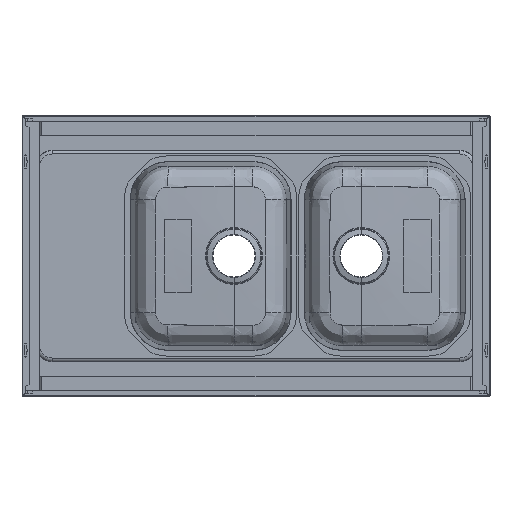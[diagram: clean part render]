
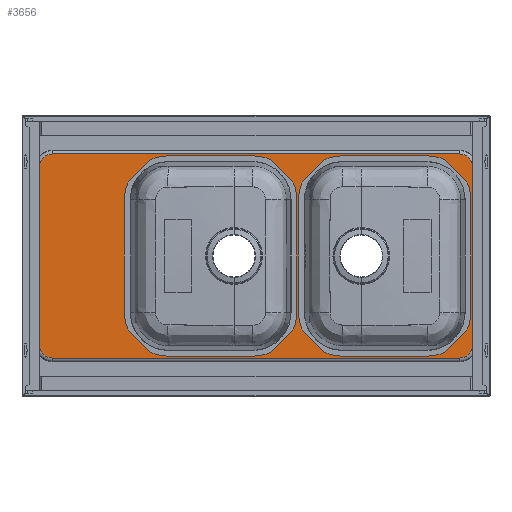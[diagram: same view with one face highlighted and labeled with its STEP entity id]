
A CAD part, front view. The second image highlights one B-rep face of the part: STEP entity #3656.
In plain terms, the highlighted planar face has unit normal (0, -1, 0).
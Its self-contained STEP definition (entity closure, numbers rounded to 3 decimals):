
#497=DIRECTION('',(-1.,0.,0.));
#498=VECTOR('',#497,870.);
#499=CARTESIAN_POINT('',(435.,-8.6,218.072));
#500=LINE('',#499,#498);
#501=CARTESIAN_POINT('',(435.,-8.6,190.));
#502=DIRECTION('',(0.,-1.,0.));
#503=DIRECTION('',(1.,0.,0.));
#504=AXIS2_PLACEMENT_3D('',#501,#502,#503);
#506=DIRECTION('',(0.,0.,1.));
#507=VECTOR('',#506,380.);
#508=CARTESIAN_POINT('',(463.072,-8.6,-190.));
#509=LINE('',#508,#507);
#510=CARTESIAN_POINT('',(435.,-8.6,-190.));
#511=DIRECTION('',(0.,-1.,0.));
#512=DIRECTION('',(0.,0.,-1.));
#513=AXIS2_PLACEMENT_3D('',#510,#511,#512);
#515=DIRECTION('',(1.,0.,0.));
#516=VECTOR('',#515,870.);
#517=CARTESIAN_POINT('',(-435.,-8.6,-218.072));
#518=LINE('',#517,#516);
#519=CARTESIAN_POINT('',(-435.,-8.6,-190.));
#520=DIRECTION('',(0.,-1.,0.));
#521=DIRECTION('',(-1.,0.,0.));
#522=AXIS2_PLACEMENT_3D('',#519,#520,#521);
#524=DIRECTION('',(0.,0.,-1.));
#525=VECTOR('',#524,380.);
#526=CARTESIAN_POINT('',(-463.072,-8.6,190.));
#527=LINE('',#526,#525);
#528=CARTESIAN_POINT('',(-435.,-8.6,190.));
#529=DIRECTION('',(0.,-1.,0.));
#530=DIRECTION('',(0.,0.,1.));
#531=AXIS2_PLACEMENT_3D('',#528,#529,#530);
#533=CARTESIAN_POINT('',(185.,-8.6,-120.));
#534=DIRECTION('',(0.,1.,0.));
#535=DIRECTION('',(0.,0.,-1.));
#536=AXIS2_PLACEMENT_3D('',#533,#534,#535);
#538=DIRECTION('',(-1.,0.,0.));
#539=VECTOR('',#538,180.);
#540=CARTESIAN_POINT('',(365.,-8.6,-201.137));
#541=LINE('',#540,#539);
#542=CARTESIAN_POINT('',(365.,-8.6,-120.));
#543=DIRECTION('',(0.,1.,0.));
#544=DIRECTION('',(1.,0.,0.));
#545=AXIS2_PLACEMENT_3D('',#542,#543,#544);
#547=DIRECTION('',(0.,0.,-1.));
#548=VECTOR('',#547,240.);
#549=CARTESIAN_POINT('',(446.137,-8.6,120.));
#550=LINE('',#549,#548);
#551=CARTESIAN_POINT('',(365.,-8.6,120.));
#552=DIRECTION('',(0.,1.,0.));
#553=DIRECTION('',(0.,0.,1.));
#554=AXIS2_PLACEMENT_3D('',#551,#552,#553);
#556=DIRECTION('',(1.,0.,0.));
#557=VECTOR('',#556,180.);
#558=CARTESIAN_POINT('',(185.,-8.6,201.137));
#559=LINE('',#558,#557);
#560=CARTESIAN_POINT('',(185.,-8.6,120.));
#561=DIRECTION('',(0.,1.,0.));
#562=DIRECTION('',(-1.,0.,0.));
#563=AXIS2_PLACEMENT_3D('',#560,#561,#562);
#565=DIRECTION('',(0.,0.,1.));
#566=VECTOR('',#565,240.);
#567=CARTESIAN_POINT('',(103.863,-8.6,-120.));
#568=LINE('',#567,#566);
#569=CARTESIAN_POINT('',(-187.,-8.6,-120.));
#570=DIRECTION('',(0.,1.,0.));
#571=DIRECTION('',(0.,0.,-1.));
#572=AXIS2_PLACEMENT_3D('',#569,#570,#571);
#574=DIRECTION('',(-1.,0.,0.));
#575=VECTOR('',#574,180.);
#576=CARTESIAN_POINT('',(-7.,-8.6,-201.137));
#577=LINE('',#576,#575);
#578=CARTESIAN_POINT('',(-7.,-8.6,-120.));
#579=DIRECTION('',(0.,1.,0.));
#580=DIRECTION('',(1.,0.,0.));
#581=AXIS2_PLACEMENT_3D('',#578,#579,#580);
#583=DIRECTION('',(0.,0.,-1.));
#584=VECTOR('',#583,240.);
#585=CARTESIAN_POINT('',(74.137,-8.6,120.));
#586=LINE('',#585,#584);
#587=CARTESIAN_POINT('',(-7.,-8.6,120.));
#588=DIRECTION('',(0.,1.,0.));
#589=DIRECTION('',(0.,0.,1.));
#590=AXIS2_PLACEMENT_3D('',#587,#588,#589);
#592=DIRECTION('',(1.,0.,0.));
#593=VECTOR('',#592,180.);
#594=CARTESIAN_POINT('',(-187.,-8.6,201.137));
#595=LINE('',#594,#593);
#596=CARTESIAN_POINT('',(-187.,-8.6,120.));
#597=DIRECTION('',(0.,1.,0.));
#598=DIRECTION('',(-1.,0.,0.));
#599=AXIS2_PLACEMENT_3D('',#596,#597,#598);
#601=DIRECTION('',(0.,0.,1.));
#602=VECTOR('',#601,240.);
#603=CARTESIAN_POINT('',(-268.137,-8.6,-120.));
#604=LINE('',#603,#602);
#2717=CARTESIAN_POINT('',(435.,-8.6,218.072));
#2718=CARTESIAN_POINT('',(-435.,-8.6,218.072));
#2719=VERTEX_POINT('',#2717);
#2720=VERTEX_POINT('',#2718);
#2721=CARTESIAN_POINT('',(-463.072,-8.6,190.));
#2722=VERTEX_POINT('',#2721);
#2723=CARTESIAN_POINT('',(-463.072,-8.6,-190.));
#2724=VERTEX_POINT('',#2723);
#2725=CARTESIAN_POINT('',(-435.,-8.6,-218.072));
#2726=VERTEX_POINT('',#2725);
#2727=CARTESIAN_POINT('',(435.,-8.6,-218.072));
#2728=VERTEX_POINT('',#2727);
#2729=CARTESIAN_POINT('',(463.072,-8.6,-190.));
#2730=VERTEX_POINT('',#2729);
#2731=CARTESIAN_POINT('',(463.072,-8.6,190.));
#2732=VERTEX_POINT('',#2731);
#2877=CARTESIAN_POINT('',(185.,-8.6,-201.137));
#2878=CARTESIAN_POINT('',(103.863,-8.6,-120.));
#2879=VERTEX_POINT('',#2877);
#2880=VERTEX_POINT('',#2878);
#2881=CARTESIAN_POINT('',(103.863,-8.6,120.));
#2882=VERTEX_POINT('',#2881);
#2883=CARTESIAN_POINT('',(185.,-8.6,201.137));
#2884=VERTEX_POINT('',#2883);
#2885=CARTESIAN_POINT('',(365.,-8.6,201.137));
#2886=VERTEX_POINT('',#2885);
#2887=CARTESIAN_POINT('',(446.137,-8.6,120.));
#2888=VERTEX_POINT('',#2887);
#2889=CARTESIAN_POINT('',(446.137,-8.6,-120.));
#2890=VERTEX_POINT('',#2889);
#2891=CARTESIAN_POINT('',(365.,-8.6,-201.137));
#2892=VERTEX_POINT('',#2891);
#2909=CARTESIAN_POINT('',(-187.,-8.6,-201.137));
#2910=CARTESIAN_POINT('',(-268.137,-8.6,-120.));
#2911=VERTEX_POINT('',#2909);
#2912=VERTEX_POINT('',#2910);
#2913=CARTESIAN_POINT('',(-268.137,-8.6,120.));
#2914=VERTEX_POINT('',#2913);
#2915=CARTESIAN_POINT('',(-187.,-8.6,201.137));
#2916=VERTEX_POINT('',#2915);
#2917=CARTESIAN_POINT('',(-7.,-8.6,201.137));
#2918=VERTEX_POINT('',#2917);
#2919=CARTESIAN_POINT('',(74.137,-8.6,120.));
#2920=VERTEX_POINT('',#2919);
#2921=CARTESIAN_POINT('',(74.137,-8.6,-120.));
#2922=VERTEX_POINT('',#2921);
#2923=CARTESIAN_POINT('',(-7.,-8.6,-201.137));
#2924=VERTEX_POINT('',#2923);
#3605=CARTESIAN_POINT('',(0.,-8.6,0.));
#3606=DIRECTION('',(0.,1.,0.));
#3607=DIRECTION('',(1.,0.,0.));
#3608=AXIS2_PLACEMENT_3D('',#3605,#3606,#3607);
#3609=PLANE('',#3608);
#3611=ORIENTED_EDGE('',*,*,#3610,.F.);
#3613=ORIENTED_EDGE('',*,*,#3612,.F.);
#3615=ORIENTED_EDGE('',*,*,#3614,.F.);
#3617=ORIENTED_EDGE('',*,*,#3616,.F.);
#3619=ORIENTED_EDGE('',*,*,#3618,.F.);
#3621=ORIENTED_EDGE('',*,*,#3620,.F.);
#3623=ORIENTED_EDGE('',*,*,#3622,.F.);
#3625=ORIENTED_EDGE('',*,*,#3624,.F.);
#3626=EDGE_LOOP('',(#3611,#3613,#3615,#3617,#3619,#3621,#3623,#3625));
#3627=FACE_OUTER_BOUND('',#3626,.F.);
#3628=ORIENTED_EDGE('',*,*,#3501,.F.);
#3629=ORIENTED_EDGE('',*,*,#3516,.F.);
#3630=ORIENTED_EDGE('',*,*,#3530,.F.);
#3631=ORIENTED_EDGE('',*,*,#3544,.F.);
#3632=ORIENTED_EDGE('',*,*,#3558,.F.);
#3633=ORIENTED_EDGE('',*,*,#3572,.F.);
#3634=ORIENTED_EDGE('',*,*,#3586,.F.);
#3635=ORIENTED_EDGE('',*,*,#3599,.F.);
#3636=EDGE_LOOP('',(#3628,#3629,#3630,#3631,#3632,#3633,#3634,#3635));
#3637=FACE_BOUND('',#3636,.F.);
#3639=ORIENTED_EDGE('',*,*,#3638,.F.);
#3641=ORIENTED_EDGE('',*,*,#3640,.F.);
#3643=ORIENTED_EDGE('',*,*,#3642,.F.);
#3645=ORIENTED_EDGE('',*,*,#3644,.F.);
#3647=ORIENTED_EDGE('',*,*,#3646,.F.);
#3649=ORIENTED_EDGE('',*,*,#3648,.F.);
#3651=ORIENTED_EDGE('',*,*,#3650,.F.);
#3653=ORIENTED_EDGE('',*,*,#3652,.F.);
#3654=EDGE_LOOP('',(#3639,#3641,#3643,#3645,#3647,#3649,#3651,#3653));
#3655=FACE_BOUND('',#3654,.F.);
#3656=ADVANCED_FACE('',(#3627,#3637,#3655),#3609,.F.);
#505=CIRCLE('',#504,28.072);
#514=CIRCLE('',#513,28.072);
#523=CIRCLE('',#522,28.072);
#532=CIRCLE('',#531,28.072);
#537=CIRCLE('',#536,81.137);
#546=CIRCLE('',#545,81.137);
#555=CIRCLE('',#554,81.137);
#564=CIRCLE('',#563,81.137);
#573=CIRCLE('',#572,81.137);
#582=CIRCLE('',#581,81.137);
#591=CIRCLE('',#590,81.137);
#600=CIRCLE('',#599,81.137);
#3501=EDGE_CURVE('',#2879,#2880,#537,.T.);
#3516=EDGE_CURVE('',#2892,#2879,#541,.T.);
#3530=EDGE_CURVE('',#2890,#2892,#546,.T.);
#3544=EDGE_CURVE('',#2888,#2890,#550,.T.);
#3558=EDGE_CURVE('',#2886,#2888,#555,.T.);
#3572=EDGE_CURVE('',#2884,#2886,#559,.T.);
#3586=EDGE_CURVE('',#2882,#2884,#564,.T.);
#3599=EDGE_CURVE('',#2880,#2882,#568,.T.);
#3610=EDGE_CURVE('',#2719,#2720,#500,.T.);
#3612=EDGE_CURVE('',#2732,#2719,#505,.T.);
#3614=EDGE_CURVE('',#2730,#2732,#509,.T.);
#3616=EDGE_CURVE('',#2728,#2730,#514,.T.);
#3618=EDGE_CURVE('',#2726,#2728,#518,.T.);
#3620=EDGE_CURVE('',#2724,#2726,#523,.T.);
#3622=EDGE_CURVE('',#2722,#2724,#527,.T.);
#3624=EDGE_CURVE('',#2720,#2722,#532,.T.);
#3638=EDGE_CURVE('',#2911,#2912,#573,.T.);
#3640=EDGE_CURVE('',#2924,#2911,#577,.T.);
#3642=EDGE_CURVE('',#2922,#2924,#582,.T.);
#3644=EDGE_CURVE('',#2920,#2922,#586,.T.);
#3646=EDGE_CURVE('',#2918,#2920,#591,.T.);
#3648=EDGE_CURVE('',#2916,#2918,#595,.T.);
#3650=EDGE_CURVE('',#2914,#2916,#600,.T.);
#3652=EDGE_CURVE('',#2912,#2914,#604,.T.);
